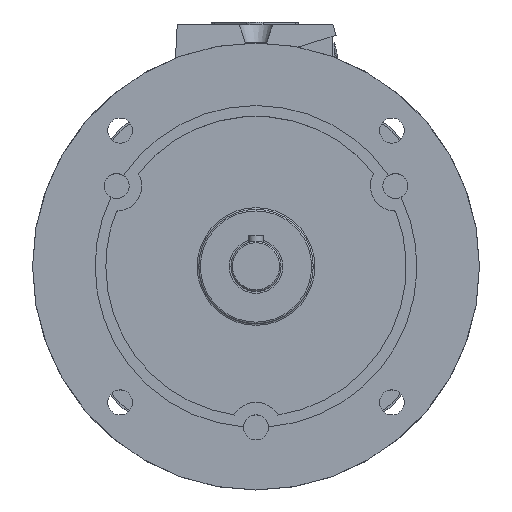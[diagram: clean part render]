
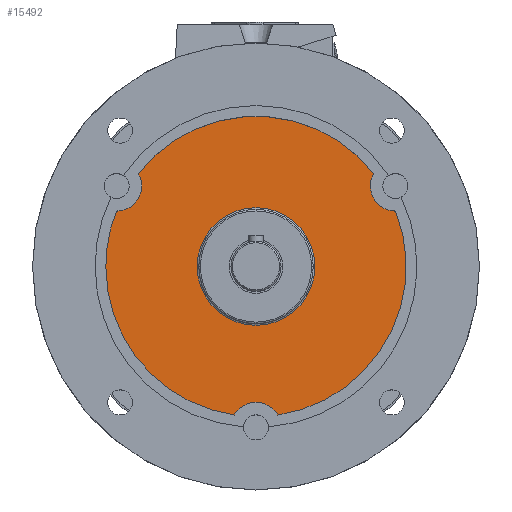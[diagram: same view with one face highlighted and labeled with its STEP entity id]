
A CAD part, top view. The second image highlights one B-rep face of the part: STEP entity #15492.
In plain terms, the highlighted planar face has unit normal (0, 0, 1).
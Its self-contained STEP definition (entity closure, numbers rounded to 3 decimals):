
#121 = FACE_OUTER_BOUND ( 'NONE', #5076, .T. ) ;
#606 = ORIENTED_EDGE ( 'NONE', *, *, #3707, .F. ) ;
#724 = CARTESIAN_POINT ( 'NONE',  ( 0., -90., 28. ) ) ;
#915 = CARTESIAN_POINT ( 'NONE',  ( -84., 0., 28. ) ) ;
#1176 = CARTESIAN_POINT ( 'NONE',  ( -32.9, 0., 28. ) ) ;
#1192 = ORIENTED_EDGE ( 'NONE', *, *, #9688, .T. ) ;
#1613 = AXIS2_PLACEMENT_3D ( 'NONE', #7698, #17590, #9124 ) ;
#1655 = DIRECTION ( 'NONE',  ( 0., 0., -1. ) ) ;
#1862 = AXIS2_PLACEMENT_3D ( 'NONE', #10100, #1655, #11511 ) ;
#2026 = DIRECTION ( 'NONE',  ( 0., 0., -1. ) ) ;
#2114 = VERTEX_POINT ( 'NONE', #7384 ) ;
#2141 = DIRECTION ( 'NONE',  ( 1., 0., 0. ) ) ;
#2359 = AXIS2_PLACEMENT_3D ( 'NONE', #7756, #17654, #9207 ) ;
#2369 = VERTEX_POINT ( 'NONE', #2648 ) ;
#2420 = VERTEX_POINT ( 'NONE', #5515 ) ;
#2648 = CARTESIAN_POINT ( 'NONE',  ( -78.07, 31.001, 28. ) ) ;
#2794 = DIRECTION ( 'NONE',  ( 0., 0., -1. ) ) ;
#2898 = DIRECTION ( 'NONE',  ( 0., 0., -1. ) ) ;
#3136 = ORIENTED_EDGE ( 'NONE', *, *, #9462, .T. ) ;
#3220 = ORIENTED_EDGE ( 'NONE', *, *, #7439, .F. ) ;
#3222 = VERTEX_POINT ( 'NONE', #915 ) ;
#3371 = AXIS2_PLACEMENT_3D ( 'NONE', #10462, #2026, #11889 ) ;
#3707 = EDGE_CURVE ( 'NONE', #3222, #2369, #5910, .T. ) ;
#4231 = AXIS2_PLACEMENT_3D ( 'NONE', #7821, #17716, #9271 ) ;
#4257 = DIRECTION ( 'NONE',  ( 0., 0., -1. ) ) ;
#4329 = EDGE_CURVE ( 'NONE', #15161, #12439, #11435, .T. ) ;
#4417 = DIRECTION ( 'NONE',  ( 0., 0., -1. ) ) ;
#4458 = VERTEX_POINT ( 'NONE', #8970 ) ;
#4683 = ORIENTED_EDGE ( 'NONE', *, *, #15837, .T. ) ;
#4889 = AXIS2_PLACEMENT_3D ( 'NONE', #11226, #2794, #12660 ) ;
#5076 = EDGE_LOOP ( 'NONE', ( #10301, #12052, #1192, #9721, #606, #7311, #3136, #3220 ) ) ;
#5356 = CIRCLE ( 'NONE', #18289, 84. ) ;
#5416 = EDGE_CURVE ( 'NONE', #8314, #3222, #14798, .T. ) ;
#5515 = CARTESIAN_POINT ( 'NONE',  ( 65.882, 52.111, 28. ) ) ;
#5910 = CIRCLE ( 'NONE', #4231, 84. ) ;
#6758 = ORIENTED_EDGE ( 'NONE', *, *, #4329, .T. ) ;
#6813 = DIRECTION ( 'NONE',  ( 0., 0., 1. ) ) ;
#6872 = AXIS2_PLACEMENT_3D ( 'NONE', #15287, #6813, #16718 ) ;
#6944 = CARTESIAN_POINT ( 'NONE',  ( -65.882, 52.111, 28. ) ) ;
#7311 = ORIENTED_EDGE ( 'NONE', *, *, #5416, .F. ) ;
#7384 = CARTESIAN_POINT ( 'NONE',  ( -63.942, 45., 28. ) ) ;
#7439 = EDGE_CURVE ( 'NONE', #14044, #4458, #15417, .T. ) ;
#7577 = FACE_BOUND ( 'NONE', #15710, .T. ) ;
#7595 = CARTESIAN_POINT ( 'NONE',  ( 78.07, 31.001, 28. ) ) ;
#7698 = CARTESIAN_POINT ( 'NONE',  ( -77.942, 45., 28. ) ) ;
#7743 = AXIS2_PLACEMENT_3D ( 'NONE', #11334, #2898, #12774 ) ;
#7756 = CARTESIAN_POINT ( 'NONE',  ( -77.942, 45., 28. ) ) ;
#7821 = CARTESIAN_POINT ( 'NONE',  ( 0., 0., 28. ) ) ;
#8006 = AXIS2_PLACEMENT_3D ( 'NONE', #724, #10571, #2141 ) ;
#8233 = AXIS2_PLACEMENT_3D ( 'NONE', #12880, #4417, #14286 ) ;
#8314 = VERTEX_POINT ( 'NONE', #17128 ) ;
#8970 = CARTESIAN_POINT ( 'NONE',  ( 12.188, -83.111, 28. ) ) ;
#9107 = CIRCLE ( 'NONE', #7743, 14. ) ;
#9124 = DIRECTION ( 'NONE',  ( 1., 0., 0. ) ) ;
#9207 = DIRECTION ( 'NONE',  ( 1., 0., 0. ) ) ;
#9271 = DIRECTION ( 'NONE',  ( -1., 0., 0. ) ) ;
#9363 = CIRCLE ( 'NONE', #2359, 14. ) ;
#9462 = EDGE_CURVE ( 'NONE', #8314, #4458, #13347, .T. ) ;
#9688 = EDGE_CURVE ( 'NONE', #13083, #2114, #9363, .T. ) ;
#9721 = ORIENTED_EDGE ( 'NONE', *, *, #15309, .T. ) ;
#9964 = EDGE_CURVE ( 'NONE', #13083, #2420, #5356, .T. ) ;
#10100 = CARTESIAN_POINT ( 'NONE',  ( 0., 0., 28. ) ) ;
#10290 = EDGE_CURVE ( 'NONE', #14044, #2420, #9107, .T. ) ;
#10301 = ORIENTED_EDGE ( 'NONE', *, *, #10290, .T. ) ;
#10462 = CARTESIAN_POINT ( 'NONE',  ( 0., 0., 28. ) ) ;
#10571 = DIRECTION ( 'NONE',  ( 0., 0., -1. ) ) ;
#11226 = CARTESIAN_POINT ( 'NONE',  ( 0., 0., 28. ) ) ;
#11334 = CARTESIAN_POINT ( 'NONE',  ( 77.942, 45., 28. ) ) ;
#11435 = CIRCLE ( 'NONE', #1862, 32.9 ) ;
#11511 = DIRECTION ( 'NONE',  ( -1., 0., 0. ) ) ;
#11889 = DIRECTION ( 'NONE',  ( -1., 0., 0. ) ) ;
#12052 = ORIENTED_EDGE ( 'NONE', *, *, #9964, .F. ) ;
#12439 = VERTEX_POINT ( 'NONE', #1176 ) ;
#12660 = DIRECTION ( 'NONE',  ( -1., 0., 0. ) ) ;
#12734 = CARTESIAN_POINT ( 'NONE',  ( 0., 0., 28. ) ) ;
#12774 = DIRECTION ( 'NONE',  ( 1., 0., 0. ) ) ;
#12880 = CARTESIAN_POINT ( 'NONE',  ( 0., 0., 28. ) ) ;
#13083 = VERTEX_POINT ( 'NONE', #6944 ) ;
#13347 = CIRCLE ( 'NONE', #8006, 14. ) ;
#14044 = VERTEX_POINT ( 'NONE', #7595 ) ;
#14138 = DIRECTION ( 'NONE',  ( -1., 0., 0. ) ) ;
#14286 = DIRECTION ( 'NONE',  ( -1., 0., 0. ) ) ;
#14450 = CIRCLE ( 'NONE', #1613, 14. ) ;
#14798 = CIRCLE ( 'NONE', #4889, 84. ) ;
#15161 = VERTEX_POINT ( 'NONE', #17177 ) ;
#15287 = CARTESIAN_POINT ( 'NONE',  ( 0., 84., 28. ) ) ;
#15309 = EDGE_CURVE ( 'NONE', #2114, #2369, #14450, .T. ) ;
#15417 = CIRCLE ( 'NONE', #8233, 84. ) ;
#15492 = ADVANCED_FACE ( 'NONE', ( #121, #7577 ), #18078, .T. ) ;
#15710 = EDGE_LOOP ( 'NONE', ( #4683, #6758 ) ) ;
#15837 = EDGE_CURVE ( 'NONE', #12439, #15161, #16157, .T. ) ;
#16157 = CIRCLE ( 'NONE', #3371, 32.9 ) ;
#16718 = DIRECTION ( 'NONE',  ( 1., 0., 0. ) ) ;
#17128 = CARTESIAN_POINT ( 'NONE',  ( -12.188, -83.111, 28. ) ) ;
#17177 = CARTESIAN_POINT ( 'NONE',  ( 32.9, 0., 28. ) ) ;
#17590 = DIRECTION ( 'NONE',  ( 0., 0., -1. ) ) ;
#17654 = DIRECTION ( 'NONE',  ( 0., 0., -1. ) ) ;
#17716 = DIRECTION ( 'NONE',  ( 0., 0., -1. ) ) ;
#18078 = PLANE ( 'NONE',  #6872 ) ;
#18289 = AXIS2_PLACEMENT_3D ( 'NONE', #12734, #4257, #14138 ) ;
